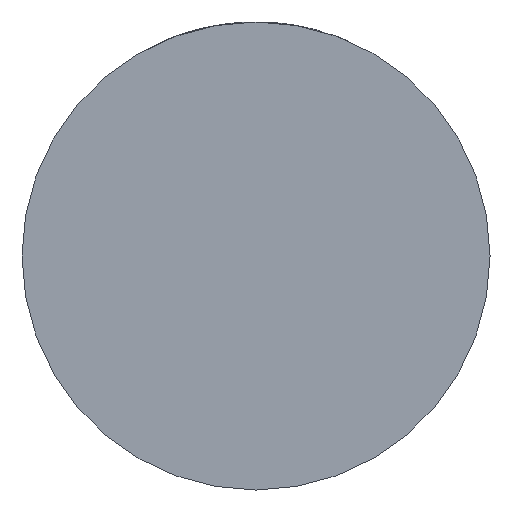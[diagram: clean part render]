
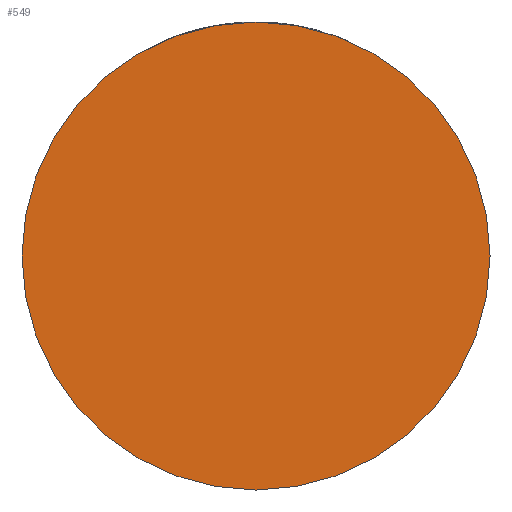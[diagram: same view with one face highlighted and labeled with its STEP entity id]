
A CAD part, front view. The second image highlights one B-rep face of the part: STEP entity #549.
In plain terms, the highlighted planar face has unit normal (0, -1, 0).
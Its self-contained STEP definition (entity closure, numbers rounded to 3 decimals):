
#113 = CARTESIAN_POINT ( 'NONE',  ( 0., -25., 0. ) ) ;
#202 = AXIS2_PLACEMENT_3D ( 'NONE', #3093, #1768, #2411 ) ;
#242 = ORIENTED_EDGE ( 'NONE', *, *, #3988, .T. ) ;
#304 = CARTESIAN_POINT ( 'NONE',  ( 0., -25., 0. ) ) ;
#345 = FACE_OUTER_BOUND ( 'NONE', #3613, .T. ) ;
#549 = ADVANCED_FACE ( 'NONE', ( #345 ), #632, .T. ) ;
#632 = PLANE ( 'NONE',  #2635 ) ;
#1030 = CARTESIAN_POINT ( 'NONE',  ( -32., -25., 0. ) ) ;
#1195 = CIRCLE ( 'NONE', #202, 32. ) ;
#1471 = DIRECTION ( 'NONE',  ( 0., -1., 0. ) ) ;
#1720 = DIRECTION ( 'NONE',  ( 0., -1., 0. ) ) ;
#1768 = DIRECTION ( 'NONE',  ( 0., -1., 0. ) ) ;
#1784 = CARTESIAN_POINT ( 'NONE',  ( 32., -25., 0. ) ) ;
#2202 = VERTEX_POINT ( 'NONE', #1030 ) ;
#2267 = CIRCLE ( 'NONE', #2841, 32. ) ;
#2411 = DIRECTION ( 'NONE',  ( 1., 0., 0. ) ) ;
#2635 = AXIS2_PLACEMENT_3D ( 'NONE', #304, #1720, #2706 ) ;
#2706 = DIRECTION ( 'NONE',  ( 1., 0., 0. ) ) ;
#2805 = ORIENTED_EDGE ( 'NONE', *, *, #3271, .T. ) ;
#2828 = DIRECTION ( 'NONE',  ( 1., 0., 0. ) ) ;
#2841 = AXIS2_PLACEMENT_3D ( 'NONE', #113, #1471, #2828 ) ;
#3090 = VERTEX_POINT ( 'NONE', #1784 ) ;
#3093 = CARTESIAN_POINT ( 'NONE',  ( 0., -25., 0. ) ) ;
#3271 = EDGE_CURVE ( 'NONE', #2202, #3090, #2267, .T. ) ;
#3613 = EDGE_LOOP ( 'NONE', ( #2805, #242 ) ) ;
#3988 = EDGE_CURVE ( 'NONE', #3090, #2202, #1195, .T. ) ;
